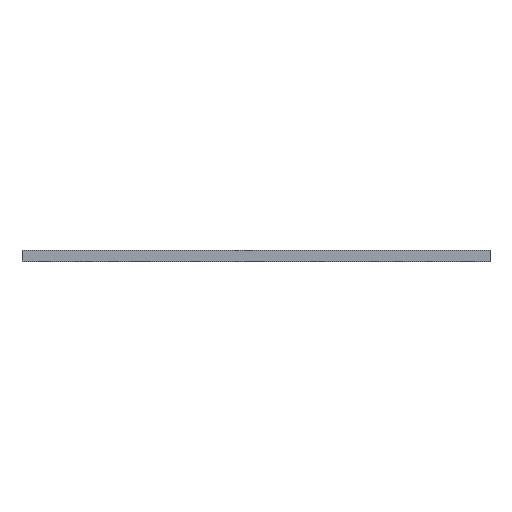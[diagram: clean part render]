
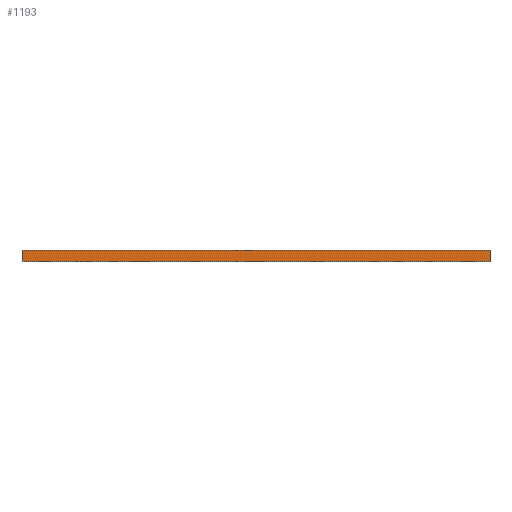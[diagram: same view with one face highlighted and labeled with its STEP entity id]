
A CAD part, top view. The second image highlights one B-rep face of the part: STEP entity #1193.
In plain terms, the highlighted planar face has unit normal (0, 0, 1).
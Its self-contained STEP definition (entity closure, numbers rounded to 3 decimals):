
#36 = ORIENTED_EDGE ( 'NONE', *, *, #833, .T. ) ;
#115 = VECTOR ( 'NONE', #957, 1000. ) ;
#233 = EDGE_CURVE ( 'NONE', #1544, #285, #1158, .T. ) ;
#264 = CARTESIAN_POINT ( 'NONE',  ( 0., 0., 0. ) ) ;
#285 = VERTEX_POINT ( 'NONE', #992 ) ;
#375 = FACE_OUTER_BOUND ( 'NONE', #702, .T. ) ;
#432 = LINE ( 'NONE', #264, #115 ) ;
#449 = EDGE_CURVE ( 'NONE', #1544, #601, #1954, .T. ) ;
#601 = VERTEX_POINT ( 'NONE', #977 ) ;
#702 = EDGE_LOOP ( 'NONE', ( #36, #2246, #1598, #1053 ) ) ;
#820 = DIRECTION ( 'NONE',  ( 0., -1., 0. ) ) ;
#830 = CARTESIAN_POINT ( 'NONE',  ( 0., 8.99, 0. ) ) ;
#833 = EDGE_CURVE ( 'NONE', #285, #2254, #432, .T. ) ;
#957 = DIRECTION ( 'NONE',  ( 1., 0., 0. ) ) ;
#977 = CARTESIAN_POINT ( 'NONE',  ( 384., 8.99, 0. ) ) ;
#992 = CARTESIAN_POINT ( 'NONE',  ( 0., 0., 0. ) ) ;
#1053 = ORIENTED_EDGE ( 'NONE', *, *, #233, .T. ) ;
#1063 = CARTESIAN_POINT ( 'NONE',  ( 0., 8.99, 0. ) ) ;
#1158 = LINE ( 'NONE', #830, #1601 ) ;
#1193 = ADVANCED_FACE ( 'NONE', ( #375 ), #2124, .F. ) ;
#1222 = CARTESIAN_POINT ( 'NONE',  ( 0., 8.99, 0. ) ) ;
#1310 = AXIS2_PLACEMENT_3D ( 'NONE', #1222, #1542, #2247 ) ;
#1443 = CARTESIAN_POINT ( 'NONE',  ( 384., 8.99, 0. ) ) ;
#1535 = VECTOR ( 'NONE', #1772, 1000. ) ;
#1542 = DIRECTION ( 'NONE',  ( 0., 0., -1. ) ) ;
#1544 = VERTEX_POINT ( 'NONE', #1063 ) ;
#1557 = CARTESIAN_POINT ( 'NONE',  ( 0., 8.99, 0. ) ) ;
#1598 = ORIENTED_EDGE ( 'NONE', *, *, #449, .F. ) ;
#1601 = VECTOR ( 'NONE', #820, 1000. ) ;
#1661 = DIRECTION ( 'NONE',  ( 1., 0., 0. ) ) ;
#1708 = VECTOR ( 'NONE', #1661, 1000. ) ;
#1772 = DIRECTION ( 'NONE',  ( 0., -1., 0. ) ) ;
#1826 = EDGE_CURVE ( 'NONE', #601, #2254, #1947, .T. ) ;
#1947 = LINE ( 'NONE', #1443, #1535 ) ;
#1954 = LINE ( 'NONE', #1557, #1708 ) ;
#1955 = CARTESIAN_POINT ( 'NONE',  ( 384., 0., 0. ) ) ;
#2124 = PLANE ( 'NONE',  #1310 ) ;
#2246 = ORIENTED_EDGE ( 'NONE', *, *, #1826, .F. ) ;
#2247 = DIRECTION ( 'NONE',  ( -1., 0., 0. ) ) ;
#2254 = VERTEX_POINT ( 'NONE', #1955 ) ;
